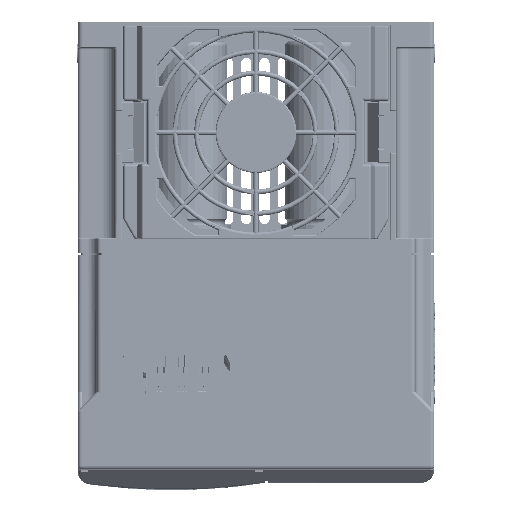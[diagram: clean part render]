
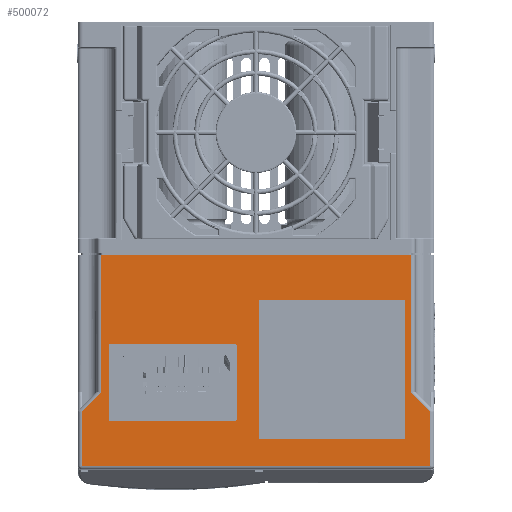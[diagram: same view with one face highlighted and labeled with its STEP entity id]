
A CAD part, front view. The second image highlights one B-rep face of the part: STEP entity #500072.
In plain terms, the highlighted planar face has unit normal (0, -1, 0).
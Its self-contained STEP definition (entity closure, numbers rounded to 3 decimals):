
#477069=CARTESIAN_POINT('',(-303.788,-609.805,278.991));
#477070=VERTEX_POINT('',#477069);
#477084=CARTESIAN_POINT('',(-165.788,-609.805,278.991));
#477085=VERTEX_POINT('',#477084);
#477093=CARTESIAN_POINT('',(-165.788,-609.805,278.991));
#477094=DIRECTION('',(-1.0,0.0,0.0));
#477095=VECTOR('',#477094,138.);
#477096=LINE('',#477093,#477095);
#477097=EDGE_CURVE('',#477085,#477070,#477096,.T.);
#496307=CARTESIAN_POINT('',(-173.288,-609.805,307.67));
#496308=VERTEX_POINT('',#496307);
#496318=CARTESIAN_POINT('',(-165.788,-609.805,300.17));
#496319=VERTEX_POINT('',#496318);
#496320=CARTESIAN_POINT('',(-173.288,-609.805,307.67));
#496321=DIRECTION('',(0.707,0.0,-0.707));
#496322=VECTOR('',#496321,10.607);
#496323=LINE('',#496320,#496322);
#496324=EDGE_CURVE('',#496308,#496319,#496323,.T.);
#496355=CARTESIAN_POINT('',(-165.788,-609.805,300.17));
#496356=DIRECTION('',(0.0,0.0,-1.0));
#496357=VECTOR('',#496356,21.179);
#496358=LINE('',#496355,#496357);
#496359=EDGE_CURVE('',#496319,#477085,#496358,.T.);
#496429=CARTESIAN_POINT('',(-296.288,-609.805,307.67));
#496430=VERTEX_POINT('',#496429);
#496455=CARTESIAN_POINT('',(-303.788,-609.805,300.17));
#496456=VERTEX_POINT('',#496455);
#496464=CARTESIAN_POINT('',(-296.288,-609.805,307.67));
#496465=DIRECTION('',(-0.707,0.0,-0.707));
#496466=VECTOR('',#496465,10.607);
#496467=LINE('',#496464,#496466);
#496468=EDGE_CURVE('',#496430,#496456,#496467,.T.);
#496539=CARTESIAN_POINT('',(-303.788,-609.805,278.991));
#496540=DIRECTION('',(0.0,0.0,1.0));
#496541=VECTOR('',#496540,21.179);
#496542=LINE('',#496539,#496541);
#496543=EDGE_CURVE('',#477070,#496456,#496542,.T.);
#496620=CARTESIAN_POINT('',(-173.288,-609.805,362.491));
#496621=VERTEX_POINT('',#496620);
#496629=CARTESIAN_POINT('',(-173.288,-609.805,362.491));
#496630=DIRECTION('',(0.0,0.0,-1.0));
#496631=VECTOR('',#496630,54.821);
#496632=LINE('',#496629,#496631);
#496633=EDGE_CURVE('',#496621,#496308,#496632,.T.);
#496644=CARTESIAN_POINT('',(-296.288,-609.805,362.491));
#496645=VERTEX_POINT('',#496644);
#496646=CARTESIAN_POINT('',(-296.288,-609.805,307.67));
#496647=DIRECTION('',(0.0,0.0,1.0));
#496648=VECTOR('',#496647,54.821);
#496649=LINE('',#496646,#496648);
#496650=EDGE_CURVE('',#496430,#496645,#496649,.T.);
#499523=CARTESIAN_POINT('',(-296.288,-609.805,362.491));
#499524=DIRECTION('',(1.0,0.0,0.0));
#499525=VECTOR('',#499524,123.0);
#499526=LINE('',#499523,#499525);
#499527=EDGE_CURVE('',#496645,#496621,#499526,.T.);
#499917=CARTESIAN_POINT('',(-305.288,-609.805,362.491));
#499918=DIRECTION('',(0.0,-1.0,0.0));
#499919=DIRECTION('',(0.0,0.0,-1.0));
#499920=AXIS2_PLACEMENT_3D('',#499917,#499918,#499919);
#499921=PLANE('',#499920);
#499922=ORIENTED_EDGE('',*,*,#496650,.F.);
#499923=ORIENTED_EDGE('',*,*,#496468,.T.);
#499924=ORIENTED_EDGE('',*,*,#496543,.F.);
#499925=ORIENTED_EDGE('',*,*,#477097,.F.);
#499926=ORIENTED_EDGE('',*,*,#496359,.F.);
#499927=ORIENTED_EDGE('',*,*,#496324,.F.);
#499928=ORIENTED_EDGE('',*,*,#496633,.F.);
#499929=ORIENTED_EDGE('',*,*,#499527,.F.);
#499930=EDGE_LOOP('',(#499922,#499923,#499924,#499925,#499926,#499927,#499928,#499929));
#499931=FACE_OUTER_BOUND('',#499930,.T.);
#499932=CARTESIAN_POINT('',(-242.988,-609.805,327.091));
#499933=VERTEX_POINT('',#499932);
#499934=CARTESIAN_POINT('',(-242.488,-609.805,326.591));
#499935=VERTEX_POINT('',#499934);
#499936=CARTESIAN_POINT('',(-242.988,-609.805,326.591));
#499937=DIRECTION('',(0.0,1.0,0.0));
#499938=DIRECTION('',(1.0,0.0,0.0));
#499939=AXIS2_PLACEMENT_3D('',#499936,#499937,#499938);
#499940=CIRCLE('',#499939,0.5);
#499941=EDGE_CURVE('',#499933,#499935,#499940,.T.);
#499942=ORIENTED_EDGE('',*,*,#499941,.T.);
#499943=CARTESIAN_POINT('',(-242.488,-609.805,296.991));
#499944=VERTEX_POINT('',#499943);
#499945=CARTESIAN_POINT('',(-242.488,-609.805,326.591));
#499946=DIRECTION('',(0.0,0.0,-1.0));
#499947=VECTOR('',#499946,29.6);
#499948=LINE('',#499945,#499947);
#499949=EDGE_CURVE('',#499935,#499944,#499948,.T.);
#499950=ORIENTED_EDGE('',*,*,#499949,.T.);
#499951=CARTESIAN_POINT('',(-242.988,-609.805,296.491));
#499952=VERTEX_POINT('',#499951);
#499953=CARTESIAN_POINT('',(-242.988,-609.805,296.991));
#499954=DIRECTION('',(0.0,1.0,0.0));
#499955=DIRECTION('',(0.0,0.0,-1.0));
#499956=AXIS2_PLACEMENT_3D('',#499953,#499954,#499955);
#499957=CIRCLE('',#499956,0.5);
#499958=EDGE_CURVE('',#499944,#499952,#499957,.T.);
#499959=ORIENTED_EDGE('',*,*,#499958,.T.);
#499960=CARTESIAN_POINT('',(-292.588,-609.805,296.491));
#499961=VERTEX_POINT('',#499960);
#499962=CARTESIAN_POINT('',(-242.988,-609.805,296.491));
#499963=DIRECTION('',(-1.0,0.0,0.0));
#499964=VECTOR('',#499963,49.6);
#499965=LINE('',#499962,#499964);
#499966=EDGE_CURVE('',#499952,#499961,#499965,.T.);
#499967=ORIENTED_EDGE('',*,*,#499966,.T.);
#499968=CARTESIAN_POINT('',(-293.088,-609.805,296.991));
#499969=VERTEX_POINT('',#499968);
#499970=CARTESIAN_POINT('',(-292.588,-609.805,296.991));
#499971=DIRECTION('',(0.0,1.0,0.0));
#499972=DIRECTION('',(-1.0,0.0,0.0));
#499973=AXIS2_PLACEMENT_3D('',#499970,#499971,#499972);
#499974=CIRCLE('',#499973,0.5);
#499975=EDGE_CURVE('',#499961,#499969,#499974,.T.);
#499976=ORIENTED_EDGE('',*,*,#499975,.T.);
#499977=CARTESIAN_POINT('',(-293.088,-609.805,326.591));
#499978=VERTEX_POINT('',#499977);
#499979=CARTESIAN_POINT('',(-293.088,-609.805,296.991));
#499980=DIRECTION('',(0.0,0.0,1.0));
#499981=VECTOR('',#499980,29.6);
#499982=LINE('',#499979,#499981);
#499983=EDGE_CURVE('',#499969,#499978,#499982,.T.);
#499984=ORIENTED_EDGE('',*,*,#499983,.T.);
#499985=CARTESIAN_POINT('',(-292.588,-609.805,327.091));
#499986=VERTEX_POINT('',#499985);
#499987=CARTESIAN_POINT('',(-292.588,-609.805,326.591));
#499988=DIRECTION('',(0.0,1.0,0.0));
#499989=DIRECTION('',(0.0,0.0,1.0));
#499990=AXIS2_PLACEMENT_3D('',#499987,#499988,#499989);
#499991=CIRCLE('',#499990,0.5);
#499992=EDGE_CURVE('',#499978,#499986,#499991,.T.);
#499993=ORIENTED_EDGE('',*,*,#499992,.T.);
#499994=CARTESIAN_POINT('',(-292.588,-609.805,327.091));
#499995=DIRECTION('',(1.0,0.0,0.0));
#499996=VECTOR('',#499995,49.6);
#499997=LINE('',#499994,#499996);
#499998=EDGE_CURVE('',#499986,#499933,#499997,.T.);
#499999=ORIENTED_EDGE('',*,*,#499998,.T.);
#500000=EDGE_LOOP('',(#499942,#499950,#499959,#499967,#499976,#499984,#499993,#499999));
#500001=FACE_BOUND('',#500000,.T.);
#500002=CARTESIAN_POINT('',(-176.288,-609.805,344.491));
#500003=VERTEX_POINT('',#500002);
#500004=CARTESIAN_POINT('',(-175.788,-609.805,343.991));
#500005=VERTEX_POINT('',#500004);
#500006=CARTESIAN_POINT('',(-176.288,-609.805,343.991));
#500007=DIRECTION('',(0.0,1.0,0.0));
#500008=DIRECTION('',(1.0,0.0,0.0));
#500009=AXIS2_PLACEMENT_3D('',#500006,#500007,#500008);
#500010=CIRCLE('',#500009,0.5);
#500011=EDGE_CURVE('',#500003,#500005,#500010,.T.);
#500012=ORIENTED_EDGE('',*,*,#500011,.T.);
#500013=CARTESIAN_POINT('',(-175.788,-609.805,289.991));
#500014=VERTEX_POINT('',#500013);
#500015=CARTESIAN_POINT('',(-175.788,-609.805,343.991));
#500016=DIRECTION('',(0.0,0.0,-1.0));
#500017=VECTOR('',#500016,54.0);
#500018=LINE('',#500015,#500017);
#500019=EDGE_CURVE('',#500005,#500014,#500018,.T.);
#500020=ORIENTED_EDGE('',*,*,#500019,.T.);
#500021=CARTESIAN_POINT('',(-176.288,-609.805,289.491));
#500022=VERTEX_POINT('',#500021);
#500023=CARTESIAN_POINT('',(-176.288,-609.805,289.991));
#500024=DIRECTION('',(0.0,1.0,0.0));
#500025=DIRECTION('',(0.0,0.0,-1.0));
#500026=AXIS2_PLACEMENT_3D('',#500023,#500024,#500025);
#500027=CIRCLE('',#500026,0.5);
#500028=EDGE_CURVE('',#500014,#500022,#500027,.T.);
#500029=ORIENTED_EDGE('',*,*,#500028,.T.);
#500030=CARTESIAN_POINT('',(-233.288,-609.805,289.491));
#500031=VERTEX_POINT('',#500030);
#500032=CARTESIAN_POINT('',(-176.288,-609.805,289.491));
#500033=DIRECTION('',(-1.0,0.0,0.0));
#500034=VECTOR('',#500033,57.);
#500035=LINE('',#500032,#500034);
#500036=EDGE_CURVE('',#500022,#500031,#500035,.T.);
#500037=ORIENTED_EDGE('',*,*,#500036,.T.);
#500038=CARTESIAN_POINT('',(-233.788,-609.805,289.991));
#500039=VERTEX_POINT('',#500038);
#500040=CARTESIAN_POINT('',(-233.288,-609.805,289.991));
#500041=DIRECTION('',(0.0,1.0,0.0));
#500042=DIRECTION('',(-1.0,0.0,0.0));
#500043=AXIS2_PLACEMENT_3D('',#500040,#500041,#500042);
#500044=CIRCLE('',#500043,0.5);
#500045=EDGE_CURVE('',#500031,#500039,#500044,.T.);
#500046=ORIENTED_EDGE('',*,*,#500045,.T.);
#500047=CARTESIAN_POINT('',(-233.788,-609.805,343.991));
#500048=VERTEX_POINT('',#500047);
#500049=CARTESIAN_POINT('',(-233.788,-609.805,289.991));
#500050=DIRECTION('',(0.0,0.0,1.0));
#500051=VECTOR('',#500050,54.0);
#500052=LINE('',#500049,#500051);
#500053=EDGE_CURVE('',#500039,#500048,#500052,.T.);
#500054=ORIENTED_EDGE('',*,*,#500053,.T.);
#500055=CARTESIAN_POINT('',(-233.288,-609.805,344.491));
#500056=VERTEX_POINT('',#500055);
#500057=CARTESIAN_POINT('',(-233.288,-609.805,343.991));
#500058=DIRECTION('',(0.0,1.0,0.0));
#500059=DIRECTION('',(0.0,0.0,1.0));
#500060=AXIS2_PLACEMENT_3D('',#500057,#500058,#500059);
#500061=CIRCLE('',#500060,0.5);
#500062=EDGE_CURVE('',#500048,#500056,#500061,.T.);
#500063=ORIENTED_EDGE('',*,*,#500062,.T.);
#500064=CARTESIAN_POINT('',(-233.288,-609.805,344.491));
#500065=DIRECTION('',(1.0,0.0,0.0));
#500066=VECTOR('',#500065,57.);
#500067=LINE('',#500064,#500066);
#500068=EDGE_CURVE('',#500056,#500003,#500067,.T.);
#500069=ORIENTED_EDGE('',*,*,#500068,.T.);
#500070=EDGE_LOOP('',(#500012,#500020,#500029,#500037,#500046,#500054,#500063,#500069));
#500071=FACE_BOUND('',#500070,.T.);
#500072=ADVANCED_FACE('',(#499931,#500001,#500071),#499921,.T.);
